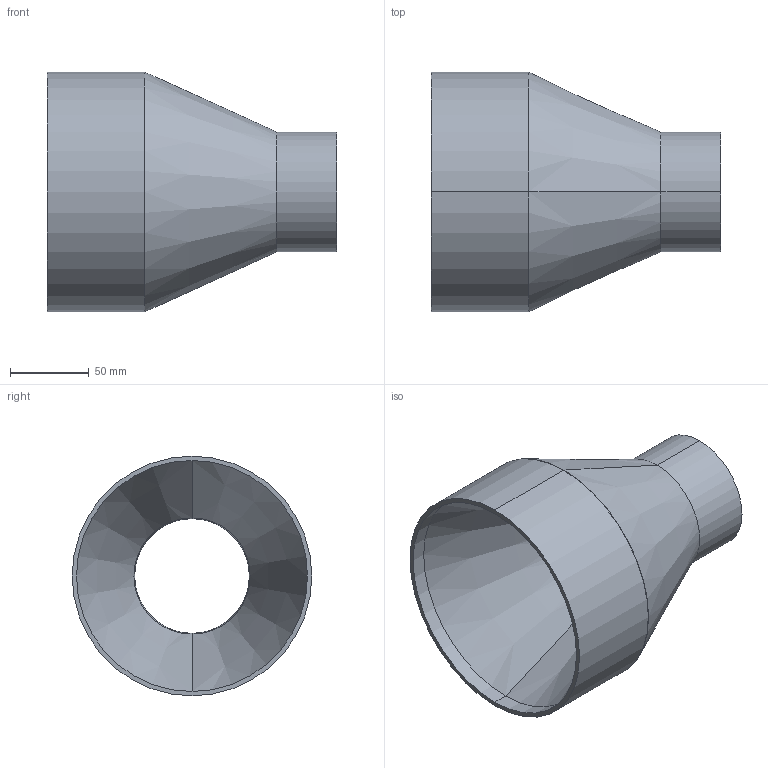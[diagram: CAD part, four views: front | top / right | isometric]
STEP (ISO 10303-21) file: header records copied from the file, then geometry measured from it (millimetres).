
FILE_DESCRIPTION (( 'STEP AP214' ), '1' );
FILE_NAME ('TE31SWW6L6.0x3.0-...STEP', '2016-05-29T10:13:28', ( 'eran' ), ( '' ), 'SwSTEP 2.0', 'SolidWorks 2016', '' );
FILE_SCHEMA (( 'AUTOMOTIVE_DESIGN' ));
Length unit declared in the file: millimetre
Products named in the file (1): TE31SWW6L6.0x3.0-..
Bounding box: 184.15 x 152.4 x 152.4 mm (x, y, z)
Volume: 815097.3 mm3; surface area: 130727.9 mm2
Topology: 1 solids, 1 shells, 18 faces, 36 edges, 20 vertices
Faces by surface type: cylinder 8, torus 4, cone 4, plane 2
Entity records: 506 total; most frequent: DIRECTION 98, CARTESIAN_POINT 75, ORIENTED_EDGE 72, AXIS2_PLACEMENT_3D 43, EDGE_CURVE 36, CIRCLE 24, EDGE_LOOP 20, VERTEX_POINT 20
